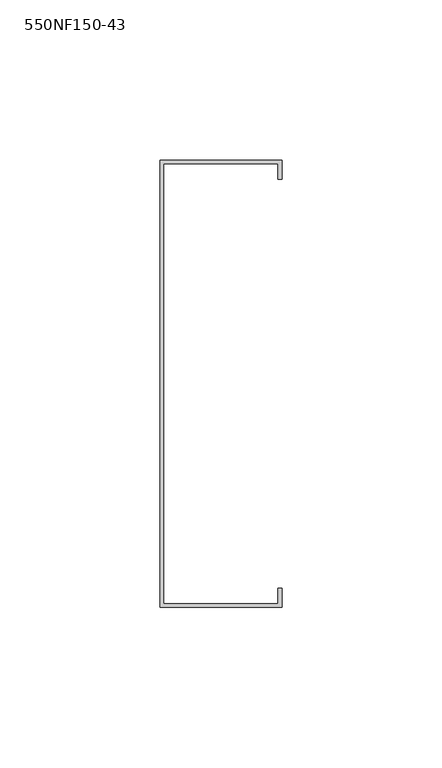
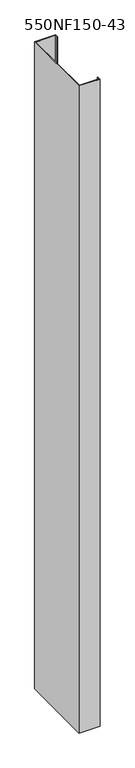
"""IFC4 building model written with IfcOpenShell, lengths in millimetres: column geometry, BIMSF-SSMA-S-Column : 550NF150-43."""

from ifc_helpers import new_model, si_unit, frame, origin, place, context, project, spatial, polyline, outline, extrude, source, transform, mapped, element, save


def column_550nf150_43_59c9e54e(model_context):
    return source(origin(), model_context, "Body", "SweptSolid", [
        extrude(outline(polyline([(-11.9977877, -80.5871249), (-11.9977877, 59.1128751), (26.1022123, 59.1128751), (26.1022123, 53.1879908), (24.952528, 53.1879908), (24.952528, 57.9631908), (-10.8481035, 57.9631908), (-10.8481035, -79.4374407), (24.952528, -79.4374407), (24.952528, -74.6622407), (26.1022123, -74.6622407), (26.1022123, -80.5871249), (-11.9977877, -80.5871249)])), frame((0.0, 0.0, 5525.3929688), z_axis=(0.0, 0.0, 1.0), x_axis=(1.0, 0.0, 0.0)), (0.0, 0.0, 1.0), 1242.0332427),
    ])


if __name__ == "__main__":
    model = new_model("IFC4")
    model_context = context("Model", 3, world=origin())
    ifc_project = project(units=[si_unit("LENGTHUNIT", "METRE", prefix="MILLI")], contexts=[model_context])
    site = spatial("IfcSite", under=ifc_project)
    building = spatial("IfcBuilding", under=site)
    placement = place(None, origin())
    column_550nf150_43_shape = column_550nf150_43_59c9e54e(model_context)
    element("IfcColumn", 1, ObjectType="BIMSF-SSMA-S-Column : 550NF150-43", at=placement, inside=building, context=model_context, shape_type="MappedRepresentation", body=[
        mapped(column_550nf150_43_shape, transform((0.0, 0.0, 0.0), x_axis=(1.0, 0.0, 0.0), y_axis=(0.0, 1.0, 0.0), z_axis=(0.0, 0.0, 1.0))),
    ])
    save(model, "model.ifc")
